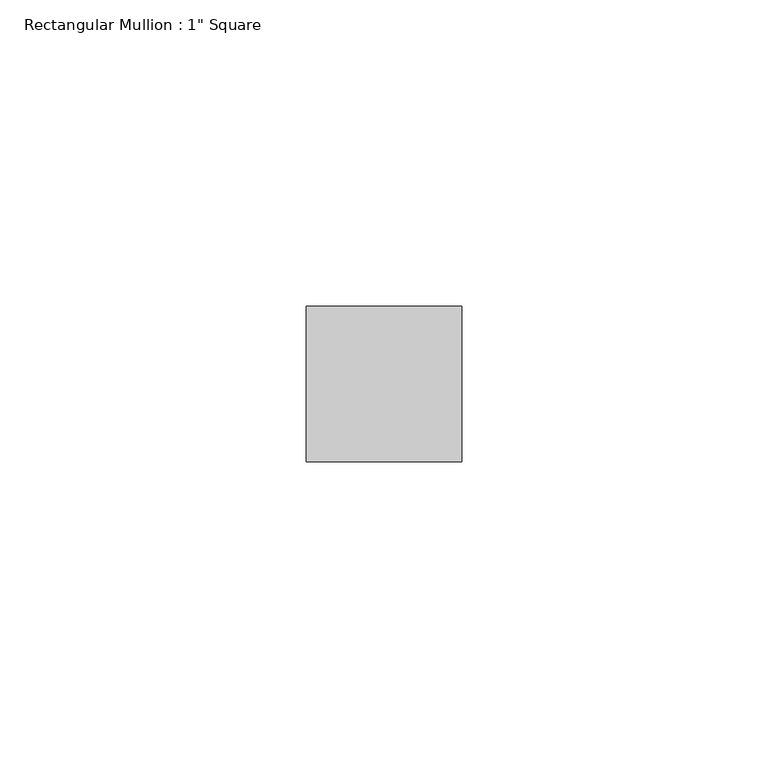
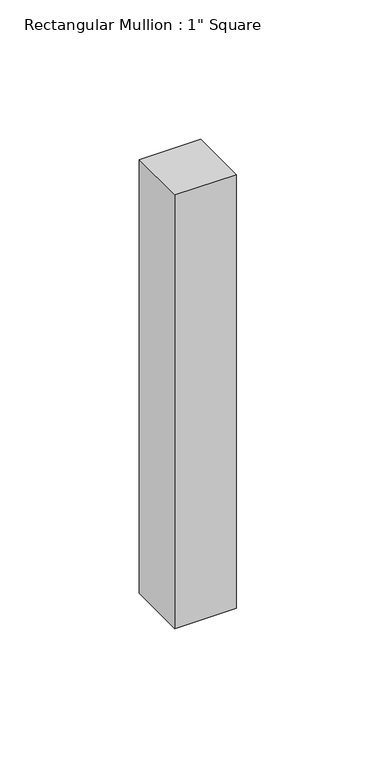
"""IFC4 building model written with IfcOpenShell, lengths in millimetres: member geometry."""

from ifc_helpers import new_model, si_unit, frame, origin, place, context, project, spatial, polyline, outline, extrude, source, transform, mapped, element, save


def member_89e98a43(model_context):
    return source(origin(), model_context, "Body", "SweptSolid", [
        extrude(outline(polyline([(12.7, 12.7), (12.7, -12.7), (-12.7, -12.7), (-12.7, 12.7), (12.7, 12.7)])), frame((0.0, 0.0, -189.8921785), z_axis=(0.0, 0.0, 1.0), x_axis=(1.0, 0.0, 0.0)), (0.0, 0.0, 1.0), 189.8921785),
    ])


if __name__ == "__main__":
    model = new_model("IFC4")
    model_context = context("Model", 3, world=origin())
    ifc_project = project(units=[si_unit("LENGTHUNIT", "METRE", prefix="MILLI")], contexts=[model_context])
    site = spatial("IfcSite", under=ifc_project)
    building = spatial("IfcBuilding", under=site)
    placement = place(None, origin())
    member_shape = member_89e98a43(model_context)
    element("IfcMember", 1, ObjectType="Rectangular Mullion : 1\" Square", at=placement, inside=building, context=model_context, shape_type="MappedRepresentation", body=[
        mapped(member_shape, transform((0.0, 0.0, 0.0), x_axis=(1.0, 0.0, 0.0), y_axis=(0.0, 1.0, 0.0), z_axis=(0.0, 0.0, 1.0))),
    ])
    save(model, "model.ifc")
